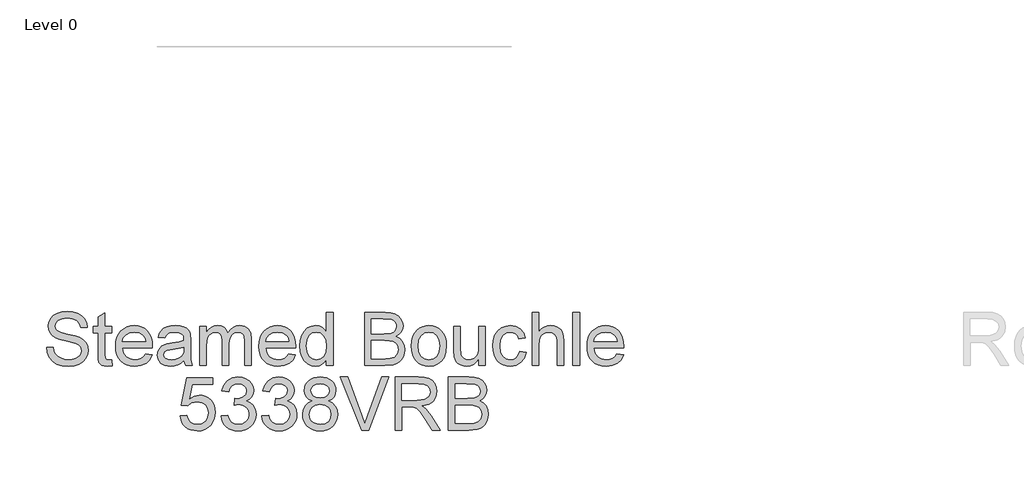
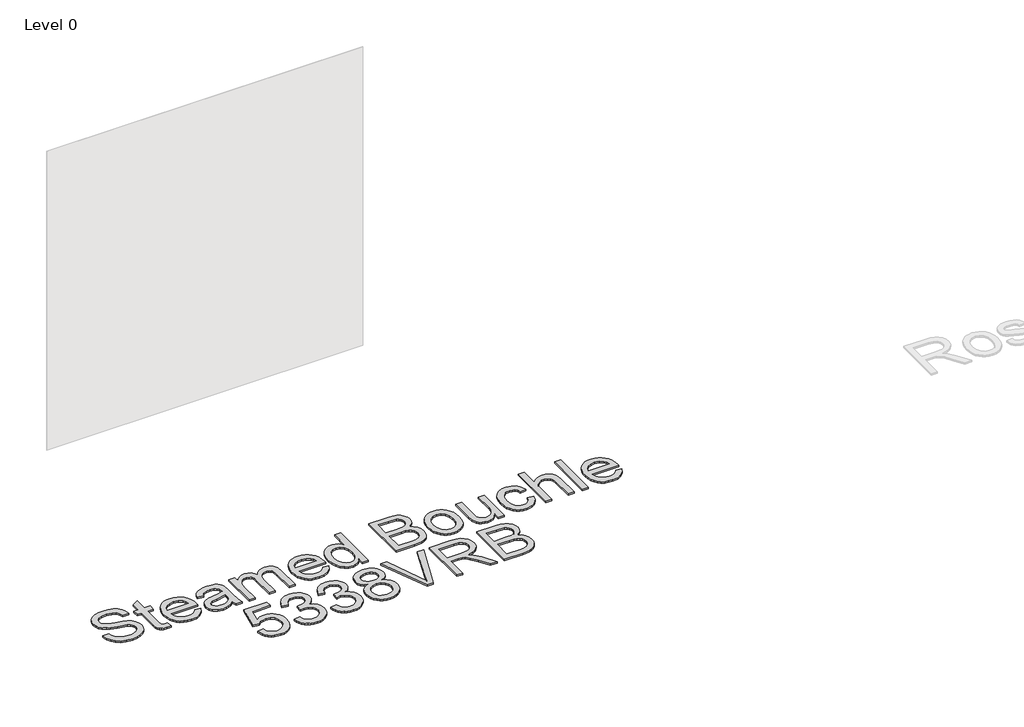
# One storey, part 2 of 43: 1 proxy.
"""IFC4 building model written with IfcOpenShell, lengths in millimetres."""

import ifcopenshell
import ifcopenshell.guid

model = None  # the IFC model being written
_history = None  # IfcOwnerHistory: only IFC2X3 demands one
_inside = {}  # id of a spatial element -> (the spatial element, [elements in it])
_under = {}  # id of a project, library or spatial element -> (it, [spatial elements below it])
_declared = {}  # id of a project -> (the project, [libraries it declares])
_typed = {}  # id of a type object -> (the type object, [elements of that type])
_made_of = {}  # id of a material, layer set ... -> (it, [elements and type objects made of it])


def new_model(schema):
    """Start an empty IFC model of exactly this schema.

    Asked for "IFC4X3", IfcOpenShell would pick the latest addendum, in which some entities
    have other attributes; the version numbers below select the first issue.
    IFC2X3 requires an IfcOwnerHistory on every rooted entity: one is made here for all.
    """
    global model, _history
    if schema == "IFC4X3":
        model = ifcopenshell.file(schema_version=(4, 3, 0, 0))
    else:
        model = ifcopenshell.file(schema=schema)
    _inside.clear()
    _under.clear()
    _declared.clear()
    _typed.clear()
    _made_of.clear()
    _history = None
    if model.schema == "IFC2X3":
        org = make("IfcOrganization", Name="unknown")
        user = make(
            "IfcPersonAndOrganization",
            ThePerson=make("IfcPerson", FamilyName="unknown"),
            TheOrganization=org,
        )
        app = make(
            "IfcApplication",
            ApplicationDeveloper=org,
            Version="unknown",
            ApplicationFullName="unknown",
            ApplicationIdentifier="unknown",
        )
        _history = make(
            "IfcOwnerHistory",
            OwningUser=user,
            OwningApplication=app,
            ChangeAction="ADDED",
            CreationDate=0,
        )
    return model


def make(cls, **values):
    """One entity of the class cls with the attributes given. An attribute that is None is left unset."""
    return model.create_entity(
        cls, **{name: value for name, value in values.items() if value is not None}
    )


def rooted(cls, **values):
    """An entity with a GlobalId (a new one), such as an element, a storey or a relation."""
    return make(cls, GlobalId=ifcopenshell.guid.new(), OwnerHistory=_history, **values)


def si_unit(unit_type, name, prefix=None):
    """IfcSIUnit, for example si_unit("LENGTHUNIT", "METRE", prefix="MILLI")."""
    return make("IfcSIUnit", UnitType=unit_type, Prefix=prefix, Name=name)


def assignment(units):
    """IfcUnitAssignment: the units of a project."""
    return None if units is None else make("IfcUnitAssignment", Units=units)


def point(xyz):
    """IfcCartesianPoint."""
    return None if xyz is None else make("IfcCartesianPoint", Coordinates=xyz)


def direction(xyz):
    """IfcDirection."""
    return None if xyz is None else make("IfcDirection", DirectionRatios=xyz)


def frame(location, z_axis=None, x_axis=None):
    """IfcAxis2Placement3D, a coordinate frame: its origin and axes. An axis left out is left unset."""
    return make(
        "IfcAxis2Placement3D",
        Location=point(location),
        Axis=direction(z_axis),
        RefDirection=direction(x_axis),
    )


def origin():
    """The frame at (0, 0, 0) with its axes left unset."""
    return frame((0.0, 0.0, 0.0))


def origin_with_axes():
    """The frame at (0, 0, 0) with the z axis (0, 0, 1) and the x axis (1, 0, 0) written out."""
    return frame((0.0, 0.0, 0.0), z_axis=(0.0, 0.0, 1.0), x_axis=(1.0, 0.0, 0.0))


def place(relative_to, where):
    """IfcLocalPlacement: puts the frame where relative to a parent placement (None: the world)."""
    return make(
        "IfcLocalPlacement", PlacementRelTo=relative_to, RelativePlacement=where
    )


def context(
    kind, dimensions, precision=None, world=None, true_north=None, identifier=None
):
    """IfcGeometricRepresentationContext, for example the 3D "Model" context."""
    return make(
        "IfcGeometricRepresentationContext",
        ContextIdentifier=identifier,
        ContextType=kind,
        CoordinateSpaceDimension=dimensions,
        Precision=precision,
        WorldCoordinateSystem=world,
        TrueNorth=true_north,
    )


def project(units=None, contexts=None):
    """IfcProject with its units and contexts."""
    return rooted(
        "IfcProject",
        Name="project",
        RepresentationContexts=contexts,
        UnitsInContext=assignment(units),
    )


def spatial(cls, under=None, at=None, **own):
    """A site, building, storey or space (cls), placed at a placement, below another one or the project."""
    s = rooted(cls, ObjectPlacement=at, **own)
    if under is not None:
        _under.setdefault(under.id(), (under, []))[1].append(s)
    return s


def polyline(points):
    """IfcPolyline through the points."""
    return make("IfcPolyline", Points=[point(p) for p in points])


def outline(outer, holes=None, kind="AREA"):
    """IfcArbitraryClosedProfileDef: a profile drawn as a closed curve; with holes, ...WithVoids."""
    if holes is None:
        return make("IfcArbitraryClosedProfileDef", ProfileType=kind, OuterCurve=outer)
    return make(
        "IfcArbitraryProfileDefWithVoids",
        ProfileType=kind,
        OuterCurve=outer,
        InnerCurves=holes,
    )


def extrude(swept, where, along, depth):
    """IfcExtrudedAreaSolid: the profile swept, set in the frame where, extruded along a direction by depth."""
    return make(
        "IfcExtrudedAreaSolid",
        SweptArea=swept,
        Position=where,
        ExtrudedDirection=direction(along),
        Depth=depth,
    )


def shape(context_of_items, identifier, shape_type, items):
    """IfcShapeRepresentation: the items that make up one representation, for example the "Body"."""
    return make(
        "IfcShapeRepresentation",
        ContextOfItems=context_of_items,
        RepresentationIdentifier=identifier,
        RepresentationType=shape_type,
        Items=items,
    )


def made_of(thing, what):
    """Note that an element or type object is made of a material, layer set ...; save() writes the relation."""
    if what is not None:
        _made_of.setdefault(what.id(), (what, []))[1].append(thing)
    return thing


def element(
    cls,
    number,
    at=None,
    inside=None,
    cuts=None,
    type_object=None,
    material=None,
    context=None,
    identifier="Body",
    shape_type=None,
    held_by="IfcProductDefinitionShape",
    body=None,
    shapes=None,
    **own,
):
    """One element of the class cls, such as IfcWall. Its Tag is "e" and its number.

    at: its placement. inside: the storey or other place that contains it. cuts: it is an
    opening in that element (IfcRelVoidsElement). A single representation is given by context,
    identifier, shape_type and body (its items); several are given by shapes. held_by: the class
    of the entity that holds the representations. save() writes the other relations.
    """
    e = rooted(cls, Tag="e%d" % number, ObjectPlacement=at, **own)
    if body is not None:
        shapes = [shape(context, identifier, shape_type, body)]
    if shapes is not None:
        e.Representation = make(held_by, Representations=shapes)
    if inside is not None:
        _inside.setdefault(inside.id(), (inside, []))[1].append(e)
    if cuts is not None:
        rooted(
            "IfcRelVoidsElement", RelatingBuildingElement=cuts, RelatedOpeningElement=e
        )
    if type_object is not None:
        _typed.setdefault(type_object.id(), (type_object, []))[1].append(e)
    return made_of(e, material)


def aggregate(whole, parts):
    """IfcRelAggregates: a whole, such as a stair, and the parts it consists of."""
    return rooted("IfcRelAggregates", RelatingObject=whole, RelatedObjects=parts)


def save(model, path):
    """Write the relations noted so far, then the file.

    IfcRelAggregates (storeys below a building ...), IfcRelContainedInSpatialStructure (elements
    in a storey), IfcRelDefinesByType, IfcRelAssociatesMaterial and IfcRelDeclares: one each for
    every whole, place, type object, material and project.
    """
    for whole, parts in _under.values():
        aggregate(whole, parts)
    for where, things in _inside.values():
        rooted(
            "IfcRelContainedInSpatialStructure",
            RelatedElements=things,
            RelatingStructure=where,
        )
    for kind, things in _typed.values():
        rooted("IfcRelDefinesByType", RelatedObjects=things, RelatingType=kind)
    for what, things in _made_of.values():
        rooted("IfcRelAssociatesMaterial", RelatedObjects=things, RelatingMaterial=what)
    for by, libraries in _declared.values():
        rooted("IfcRelDeclares", RelatingContext=by, RelatedDefinitions=libraries)
    model.write(path)


model = new_model("IFC4")

# Units and contexts
model_context = context("Model", 3, world=origin())
ifc_project = project(units=[si_unit("LENGTHUNIT", "METRE", prefix="MILLI")], contexts=[model_context])

# Site, building, storey
site = spatial("IfcSite", under=ifc_project)
building = spatial("IfcBuilding", under=site)
storey = spatial("IfcBuildingStorey", under=building, Name="Level 0", Elevation=0.0)

# Proxy
placement = place(None, origin())
element("IfcBuildingElementProxy", 1, Name="300mm Arial", ObjectType="300mm Arial", at=placement, inside=storey, context=model_context, shape_type="SweptSolid", body=[
    extrude(outline(polyline([(-11077.5793918, -41926.4348053), (-11039.9082755, -41926.4348053), (-11035.585662, -41947.3396997), (-11027.7681696, -41964.1427098), (-11015.5728815, -41977.4784321), (-10998.1168808, -41987.9814631), (-10976.7797251, -41994.796477), (-10952.9409718, -41997.0681484), (-10931.953304, -41995.3483), (-10913.5775983, -41990.188755), (-10898.6875746, -41982.0217748), (-10888.1569525, -41971.2796205), (-10881.8937615, -41958.9463766), (-10879.8060312, -41946.0061274), (-10881.3695296, -41933.396972), (-10886.0600251, -41922.4984679), (-10895.5881688, -41913.2002505), (-10911.664612, -41905.3919552), (-10966.5158174, -41891.0077691), (-11002.5222677, -41881.4888225), (-11025.5608777, -41872.4297284), (-11044.3136624, -41859.7561937), (-11057.6033994, -41844.3971204), (-11065.5220594, -41826.6836023), (-11068.1616127, -41806.9467332), (-11064.89666, -41784.8830106), (-11055.1018019, -41764.30921), (-11039.0345557, -41746.8716034), (-11016.952439, -41734.2164628), (-10990.4465412, -41726.518532), (-10961.1079521, -41723.9525551), (-10929.3229477, -41726.6380937), (-10901.5110689, -41734.6947094), (-10878.665597, -41747.9568553), (-10861.7798134, -41766.2589846), (-10851.0928414, -41788.460663), (-10846.8438044, -41813.4214564), (-10884.5149207, -41813.4214564), (-10891.4311022, -41790.9438665), (-10905.8520764, -41774.7202705), (-10928.3848486, -41764.8978212), (-10959.6364241, -41761.6236714), (-10991.6237636, -41764.861033), (-11013.5679246, -41774.5731177), (-11026.2598535, -41788.8653332), (-11030.4904964, -41805.8430873), (-11027.4922581, -41820.3192438), (-11018.4975434, -41831.9627089), (-10997.233964, -41842.3737694), (-10956.9876738, -41853.005559), (-10915.4537965, -41863.1039198), (-10890.3274562, -41871.9146936), (-10868.8523448, -41885.5815097), (-10853.8703505, -41902.4488992), (-10845.0687738, -41922.332921), (-10842.1349149, -41945.0496342), (-10845.5102322, -41968.2721852), (-10855.6361841, -41990.1151786), (-10872.0989034, -42008.9139486), (-10894.4845228, -42023.003829), (-10921.4042878, -42031.8054057), (-10951.4694438, -42034.7392647), (-10988.377205, -42031.5754795), (-11018.7550607, -42022.084124), (-11042.952499, -42006.22841), (-11061.3190076, -41983.9715493), (-11073.1096255, -41956.8586463), (-11077.5793918, -41926.4348053)])), origin_with_axes(), (0.0, 0.0, 1.0), 10.0),
    extrude(outline(polyline([(-10710.2860078, -41998.6132527), (-10705.5771183, -42031.1340211), (-10733.7568791, -42034.7392647), (-10751.8382791, -42033.1757662), (-10765.3211543, -42028.4852707), (-10774.8492979, -42021.2563895), (-10781.0665037, -42012.0777338), (-10784.4878062, -41996.3139903), (-10785.6282404, -41969.3298459), (-10785.6282404, -41846.3836831), (-10813.8815776, -41846.3836831), (-10813.8815776, -41808.7125668), (-10785.6282404, -41808.7125668), (-10785.6282404, -41754.9282191), (-10747.9571241, -41732.781723), (-10747.9571241, -41808.7125668), (-10710.2860078, -41808.7125668), (-10710.2860078, -41846.3836831), (-10747.9571241, -41846.3836831), (-10747.9571241, -41968.2261999), (-10745.9705613, -41987.6503693), (-10739.5326264, -41994.5297626), (-10726.6935448, -41997.0681484), (-10710.2860078, -41998.6132527)])), origin_with_axes(), (0.0, 0.0, 1.0), 10.0),
    extrude(outline(polyline([(-10517.6629951, -41964.1059216), (-10480.7276428, -41968.8148111), (-10494.035774, -41996.6450841), (-10515.2717621, -42017.4488109), (-10543.9573607, -42030.4166512), (-10579.6143231, -42034.7392647), (-10602.9886254, -42032.8745628), (-10623.8153448, -42027.2804572), (-10642.0944815, -42017.9569479), (-10657.8260353, -42004.9040349), (-10670.4765774, -41988.4850016), (-10679.5126789, -41969.0631315), (-10684.9343398, -41946.6384246), (-10686.7415601, -41921.2108809), (-10684.9159457, -41894.9211139), (-10679.4391025, -41871.7491467), (-10670.3110305, -41851.6949794), (-10657.5317297, -41834.7586121), (-10641.8415626, -41821.3033281), (-10623.9808917, -41811.692411), (-10603.9497171, -41805.9258607), (-10581.7480387, -41804.0036773), (-10560.2614309, -41805.9212622), (-10540.8303638, -41811.6740169), (-10523.4548373, -41821.2619414), (-10508.1348514, -41834.6850357), (-10495.6291629, -41851.5846148), (-10486.6965282, -41871.6019939), (-10481.3369474, -41894.7371729), (-10479.5504204, -41920.9901518), (-10479.7711496, -41931.1436948), (-10649.0704438, -41931.1436948), (-10642.5497354, -41959.3418497), (-10627.4021943, -41980.0720002), (-10605.5408067, -41992.8191113), (-10578.8785591, -41997.0681484), (-10558.8289904, -41995.0999797), (-10541.9432068, -41989.1954737), (-10528.2212084, -41978.9867483), (-10517.6629951, -41964.1059216)]), holes=[polyline([(-10649.0704438, -41893.4725785), (-10517.2215367, -41893.4725785), (-10522.3167024, -41873.5701626), (-10532.3046985, -41859.3331294), (-10554.2672536, -41846.0893775), (-10581.8951915, -41841.6747936), (-10607.2882462, -41845.1972637), (-10628.2851111, -41855.764674), (-10642.8808292, -41872.2365903), (-10649.0704438, -41893.4725785)])]), origin_with_axes(), (0.0, 0.0, 1.0), 10.0),
    extrude(outline(polyline([(-10300.612618, -42001.7770379), (-10318.6112446, -42017.2096876), (-10337.1433001, -42027.3080484), (-10356.6318488, -42032.8814606), (-10377.499955, -42034.7392647), (-10408.9814567, -42030.2694984), (-10432.2040076, -42016.8601997), (-10446.5238143, -41996.4979313), (-10451.2970832, -41971.1692559), (-10449.4944614, -41955.5526652), (-10444.0865961, -41941.3708143), (-10435.7448718, -41929.2307084), (-10425.1406733, -41919.739353), (-10398.7635343, -41907.3785179), (-10366.1691895, -41901.7131352), (-10327.6519446, -41895.7534469), (-10300.8333472, -41888.763689), (-10300.612618, -41880.3759795), (-10303.206186, -41863.5637723), (-10310.9868902, -41852.5641006), (-10328.3877086, -41844.3971204), (-10352.6311321, -41841.6747936), (-10375.0719338, -41843.4866124), (-10390.7437068, -41848.9220689), (-10401.4306787, -41858.9744444), (-10408.9170773, -41874.6370204), (-10446.5881937, -41869.9281308), (-10440.0490912, -41849.3267391), (-10430.2910213, -41833.1399313), (-10416.4034759, -41820.7607022), (-10397.4759473, -41811.5820464), (-10374.3269727, -41805.8982696), (-10347.7750897, -41804.0036773), (-10322.3084586, -41805.6775404), (-10302.1209341, -41810.6991296), (-10286.8998166, -41818.2499075), (-10276.3324063, -41827.5113368), (-10269.3242543, -41838.9616639), (-10264.7809116, -41853.0791354), (-10262.9415017, -41886.0413622), (-10262.9415017, -41932.9095284), (-10261.0285153, -41998.3557353), (-10253.5237226, -42030.0303751), (-10291.1948389, -42030.0303751), (-10300.612618, -42001.7770379)]), holes=[polyline([(-10300.612618, -41926.4348053), (-10361.3867236, -41937.9862999), (-10393.7971273, -41944.093141), (-10408.4756189, -41954.0259549), (-10413.6259669, -41968.5205055), (-10410.8208667, -41979.7225123), (-10402.405566, -41988.9011681), (-10388.564006, -41995.0264033), (-10369.4801275, -41997.0681484), (-10349.2466177, -41994.8148711), (-10331.3675528, -41988.0550395), (-10316.8730022, -41978.0946345), (-10306.7930355, -41966.2396372), (-10302.3232692, -41954.0259549), (-10300.8333472, -41937.1033831), (-10300.612618, -41926.4348053)])]), origin_with_axes(), (0.0, 0.0, 1.0), 10.0),
    extrude(outline(polyline([(-10211.1437167, -42030.0303751), (-10211.1437167, -41808.7125668), (-10173.4726004, -41808.7125668), (-10173.4726004, -41845.1328843), (-10162.141835, -41828.4034506), (-10147.573708, -41815.2976545), (-10130.2648601, -41806.8271716), (-10110.7119321, -41804.0036773), (-10089.7610524, -41806.8823539), (-10072.9672393, -41815.5183837), (-10060.4224633, -41829.3415497), (-10052.2186948, -41847.7816347), (-10038.4874994, -41828.6287783), (-10022.8249234, -41814.9481666), (-10005.230967, -41806.7397996), (-9985.7056301, -41804.0036773), (-9957.3879135, -41808.556217), (-9936.4462309, -41822.213836), (-9923.5059818, -41845.3444165), (-9919.1925654, -41878.3158403), (-9919.1925654, -42030.0303751), (-9956.8636817, -42030.0303751), (-9956.8636817, -41894.5026481), (-9960.3585606, -41863.0487375), (-9965.2697853, -41854.3759195), (-9973.0137013, -41847.5609055), (-9982.9741063, -41843.1463216), (-9994.534798, -41841.6747936), (-10014.9430517, -41845.445584), (-10031.5805149, -41856.7579554), (-10042.6445659, -41876.3844598), (-10046.3325829, -41905.0976496), (-10046.3325829, -42030.0303751), (-10084.0036992, -42030.0303751), (-10084.0036992, -41890.3087934), (-10086.1834, -41869.0084258), (-10092.7225025, -41853.8148994), (-10104.2280119, -41844.7098201), (-10121.3069335, -41841.6747936), (-10135.8198782, -41843.6981446), (-10149.1923887, -41849.7681975), (-10160.2288486, -41859.7377996), (-10167.7336413, -41873.459798), (-10172.0378606, -41892.4976912), (-10173.4726004, -41918.4149778), (-10173.4726004, -42030.0303751), (-10211.1437167, -42030.0303751)])), origin_with_axes(), (0.0, 0.0, 1.0), 10.0),
    extrude(outline(polyline([(-9707.7339945, -41964.1059216), (-9670.7986422, -41968.8148111), (-9684.1067734, -41996.6450841), (-9705.3427616, -42017.4488109), (-9734.0283601, -42030.4166512), (-9769.6853225, -42034.7392647), (-9793.0596248, -42032.8745628), (-9813.8863442, -42027.2804572), (-9832.1654809, -42017.9569479), (-9847.8970347, -42004.9040349), (-9860.5475768, -41988.4850016), (-9869.5836783, -41969.0631315), (-9875.0053392, -41946.6384246), (-9876.8125595, -41921.2108809), (-9874.9869451, -41894.9211139), (-9869.5101019, -41871.7491467), (-9860.3820299, -41851.6949794), (-9847.6027291, -41834.7586121), (-9831.912562, -41821.3033281), (-9814.0518911, -41811.692411), (-9794.0207165, -41805.9258607), (-9771.8190381, -41804.0036773), (-9750.3324303, -41805.9212622), (-9730.9013632, -41811.6740169), (-9713.5258367, -41821.2619414), (-9698.2058509, -41834.6850357), (-9685.7001623, -41851.5846148), (-9676.7675276, -41871.6019939), (-9671.4079468, -41894.7371729), (-9669.6214198, -41920.9901518), (-9669.842149, -41931.1436948), (-9839.1414432, -41931.1436948), (-9832.6207348, -41959.3418497), (-9817.4731937, -41980.0720002), (-9795.6118061, -41992.8191113), (-9768.9495585, -41997.0681484), (-9748.8999898, -41995.0999797), (-9732.0142062, -41989.1954737), (-9718.2922078, -41978.9867483), (-9707.7339945, -41964.1059216)]), holes=[polyline([(-9839.1414432, -41893.4725785), (-9707.2925361, -41893.4725785), (-9712.3877018, -41873.5701626), (-9722.3756979, -41859.3331294), (-9744.3382531, -41846.0893775), (-9771.9661909, -41841.6747936), (-9797.3592456, -41845.1972637), (-9818.3561105, -41855.764674), (-9832.9518286, -41872.2365903), (-9839.1414432, -41893.4725785)])]), origin_with_axes(), (0.0, 0.0, 1.0), 10.0),
    extrude(outline(polyline([(-9495.3925069, -42030.0303751), (-9495.3925069, -41994.4929744), (-9506.6634915, -42012.1007264), (-9520.3165121, -42024.6776921), (-9536.3515686, -42032.2238715), (-9554.7686609, -42034.7392647), (-9579.122449, -42031.0972329), (-9601.4160979, -42020.1711376), (-9620.2884443, -42002.724334), (-9634.3783247, -41979.5201772), (-9643.1523103, -41951.4967662), (-9646.0769721, -41919.5922002), (-9643.3822365, -41888.0831073), (-9635.2980297, -41859.627435), (-9621.8335487, -41835.843864), (-9602.9979905, -41818.3510751), (-9580.216898, -41807.5905267), (-9554.9158137, -41804.0036773), (-9536.4849258, -41806.5696542), (-9520.1877534, -41814.2675849), (-9506.3737845, -41826.0673999), (-9495.3925069, -41840.9390296), (-9495.3925069, -41728.6614447), (-9457.7213906, -41728.6614447), (-9457.7213906, -42030.0303751), (-9495.3925069, -42030.0303751)]), holes=[polyline([(-9608.4058558, -41919.4450474), (-9604.1568188, -41953.5201172), (-9591.4097077, -41977.7543436), (-9572.8868492, -41992.2396972), (-9551.3105702, -41997.0681484), (-9529.7434882, -41992.4604264), (-9511.6896793, -41978.6372604), (-9499.4668, -41955.341133), (-9495.3925069, -41922.3145269), (-9499.5403764, -41886.2069091), (-9511.9839849, -41861.1725393), (-9530.4976463, -41846.54923), (-9552.8556746, -41841.6747936), (-9574.6526828, -41846.356092), (-9592.5133536, -41860.3999871), (-9604.4327303, -41884.523849), (-9608.4058558, -41919.4450474)])]), origin_with_axes(), (0.0, 0.0, 1.0), 10.0),
    extrude(outline(polyline([(-9278.7835882, -42030.0303751), (-9278.7835882, -41728.6614447), (-9163.7836765, -41728.6614447), (-9132.1550219, -41730.8779337), (-9107.460943, -41737.5274008), (-9088.5334144, -41748.7753928), (-9074.2044106, -41764.7874566), (-9065.1821047, -41783.6230148), (-9062.1746694, -41803.3414897), (-9064.7038581, -41821.4872691), (-9072.2914243, -41838.5477966), (-9084.9925502, -41853.4746086), (-9102.8624181, -41865.2192413), (-9081.5160653, -41876.3660657), (-9065.7431248, -41893.3254257), (-9056.0034489, -41914.9752811), (-9052.7568903, -41940.1935919), (-9054.9733793, -41961.2088509), (-9061.6228464, -41980.6973996), (-9071.5464632, -41997.2704835), (-9083.5854015, -42009.539348), (-9098.3282725, -42018.4236982), (-9116.3636873, -42024.843239), (-9164.6665933, -42030.0303751), (-9278.7835882, -42030.0303751)]), holes=[polyline([(-9241.1124719, -41851.0925727), (-9172.3185388, -41851.0925727), (-9132.1458249, -41847.8552111), (-9118.0835356, -41842.2726018), (-9107.9759778, -41833.9124835), (-9101.8783337, -41822.9036148), (-9099.8457857, -41809.3747544), (-9101.740378, -41796.2413672), (-9107.4241548, -41784.8002371), (-9116.6395988, -41775.8699017), (-9129.1291925, -41770.2688983), (-9177.5424631, -41766.332561), (-9241.1124719, -41766.332561), (-9241.1124719, -41851.0925727)]), polyline([(-9241.1124719, -41992.3592588), (-9163.8572529, -41992.3592588), (-9135.8982212, -41990.8877308), (-9112.2434089, -41982.6839623), (-9096.5716359, -41965.9453316), (-9091.963914, -41954.1179254), (-9090.4280066, -41940.5614739), (-9092.2306284, -41924.8161245), (-9097.6384937, -41911.2780671), (-9107.083864, -41900.6922627), (-9120.9990004, -41893.8036723), (-9140.7082783, -41890.0236848), (-9167.5360728, -41888.763689), (-9241.1124719, -41888.763689), (-9241.1124719, -41992.3592588)])]), origin_with_axes(), (0.0, 0.0, 1.0), 10.0),
    extrude(outline(polyline([(-9015.085774, -41919.371471), (-9013.0486275, -41890.708865), (-9006.9371878, -41866.0101876), (-8996.7514551, -41845.2754386), (-8982.4914292, -41828.5046182), (-8968.1348344, -41817.7854565), (-8952.2883174, -41810.1289125), (-8934.9518784, -41805.5349861), (-8916.1255173, -41804.0036773), (-8895.3424839, -41805.8683791), (-8876.5506117, -41811.4624847), (-8859.7499008, -41820.7859941), (-8844.9403512, -41833.8389071), (-8832.8531284, -41850.1797655), (-8824.2193979, -41869.3671108), (-8819.0391595, -41891.400943), (-8817.3124134, -41916.2812622), (-8820.365834, -41954.3386546), (-8829.5260957, -41983.3093617), (-8844.526484, -42005.0052024), (-8865.1002846, -42021.2379954), (-8889.5368461, -42031.3639474), (-8916.1255173, -42034.7392647), (-8937.2120534, -42032.8814606), (-8956.1786695, -42027.3080484), (-8973.0253657, -42018.019028), (-8987.7521418, -42005.0143994), (-8999.7106059, -41988.514892), (-9008.252366, -41968.7412347), (-9013.377422, -41945.6934277), (-9015.085774, -41919.371471)]), holes=[polyline([(-8977.4146577, -41919.2978946), (-8973.0552561, -41953.3913585), (-8959.9770511, -41977.6807672), (-8940.2953644, -41992.2213031), (-8916.1255173, -41997.0681484), (-8892.0660348, -41992.1937119), (-8872.4211363, -41977.5704026), (-8859.3429314, -41952.9590971), (-8854.9835297, -41918.1206722), (-8859.3705225, -41885.0204897), (-8872.5315009, -41861.0621747), (-8892.2039906, -41846.5216389), (-8916.1255173, -41841.6747936), (-8940.2953644, -41846.5032448), (-8959.9770511, -41860.9885983), (-8973.0552561, -41885.2228248), (-8977.4146577, -41919.2978946)])]), origin_with_axes(), (0.0, 0.0, 1.0), 10.0),
    extrude(outline(polyline([(-8633.6657214, -42030.0303751), (-8633.6657214, -41991.9913768), (-8647.2957493, -42010.6935777), (-8663.1698574, -42024.0522927), (-8681.2880457, -42032.0675217), (-8701.6503141, -42034.7392647), (-8719.9984286, -42032.8630665), (-8737.0773503, -42027.234472), (-8751.406354, -42018.7731861), (-8761.5047147, -42008.3989138), (-8772.7251156, -41980.6606114), (-8774.9324076, -41945.6382454), (-8774.9324076, -41808.7125668), (-8737.2612913, -41808.7125668), (-8737.2612913, -41927.9063333), (-8734.9804229, -41966.3132136), (-8729.4897841, -41979.124704), (-8720.0812021, -41988.8643799), (-8707.3800762, -41995.0172062), (-8692.0118059, -41997.0681484), (-8675.7606187, -41994.971221), (-8660.5578953, -41988.6804389), (-8648.0223163, -41978.7752161), (-8639.7725625, -41965.834967), (-8635.1924317, -41948.1122518), (-8633.6657214, -41923.8596313), (-8633.6657214, -41808.7125668), (-8595.9946051, -41808.7125668), (-8595.9946051, -42030.0303751), (-8633.6657214, -42030.0303751)])), origin_with_axes(), (0.0, 0.0, 1.0), 10.0),
    extrude(outline(polyline([(-8402.930134, -41949.979253), (-8365.2590177, -41954.6881425), (-8375.7620487, -41988.1929952), (-8395.4989177, -42013.5124735), (-8422.6118208, -42029.4325669), (-8455.2429538, -42034.7392647), (-8476.3708766, -42032.8883584), (-8495.3145001, -42027.3356395), (-8512.0738242, -42018.0811081), (-8526.648849, -42005.124764), (-8538.4463648, -41988.7103293), (-8546.8731617, -41969.0815256), (-8551.9292399, -41946.2383529), (-8553.6145993, -41920.1808114), (-8550.7359227, -41886.6575646), (-8542.0998928, -41857.604084), (-8527.568554, -41834.1424097), (-8507.0039505, -41817.3945819), (-8482.4018421, -41807.3514034), (-8455.7579886, -41804.0036773), (-8423.9269989, -41808.6022022), (-8398.4787619, -41822.397777), (-8380.2226179, -41844.6546378), (-8369.9679073, -41874.6370204), (-8407.6390236, -41879.3459099), (-8414.4724316, -41862.9107818), (-8425.1134184, -41851.1293609), (-8438.9733725, -41844.0384354), (-8455.463683, -41841.6747936), (-8479.808274, -41846.3285008), (-8499.1312758, -41860.2896225), (-8511.7404312, -41884.3123168), (-8515.943483, -41919.1507418), (-8511.8324017, -41954.4582163), (-8499.4991578, -41978.563684), (-8480.5256439, -41992.4420323), (-8456.4937525, -41997.0681484), (-8436.9868097, -41994.1802747), (-8420.99314, -41985.5166537), (-8409.3588719, -41970.8565562), (-8402.930134, -41949.979253)])), origin_with_axes(), (0.0, 0.0, 1.0), 10.0),
    extrude(outline(polyline([(-8332.296791, -42030.0303751), (-8332.296791, -41728.6614447), (-8294.6256747, -41728.6614447), (-8294.6256747, -41839.4675016), (-8280.7887131, -41823.9520785), (-8265.2502973, -41812.8696334), (-8248.0104274, -41806.2201663), (-8229.0691031, -41804.0036773), (-8206.3156017, -41806.4225014), (-8186.7626737, -41813.6789738), (-8171.3668122, -41825.2028773), (-8161.0845104, -41840.4239948), (-8155.290369, -41861.3380862), (-8153.3589885, -41889.9409114), (-8153.3589885, -42030.0303751), (-8191.0301048, -42030.0303751), (-8191.0301048, -41893.8404605), (-8194.0283431, -41870.2592246), (-8203.0230579, -41854.109205), (-8217.5176085, -41844.7833964), (-8237.0153542, -41841.6747936), (-8252.9354476, -41843.771721), (-8267.8806536, -41850.0625031), (-8280.2598828, -41859.9401347), (-8288.4820453, -41872.7976104), (-8293.0897673, -41889.8857291), (-8294.6256747, -41912.4552895), (-8294.6256747, -42030.0303751), (-8332.296791, -42030.0303751)])), origin_with_axes(), (0.0, 0.0, 1.0), 10.0),
    extrude(outline(polyline([(-8101.5612036, -42030.0303751), (-8101.5612036, -41728.6614447), (-8063.8900873, -41728.6614447), (-8063.8900873, -42030.0303751), (-8101.5612036, -42030.0303751)])), origin_with_axes(), (0.0, 0.0, 1.0), 10.0),
    extrude(outline(polyline([(-7852.4315165, -41964.1059216), (-7815.4961641, -41968.8148111), (-7828.8042953, -41996.6450841), (-7850.0402835, -42017.4488109), (-7878.7258821, -42030.4166512), (-7914.3828444, -42034.7392647), (-7937.7571467, -42032.8745628), (-7958.5838662, -42027.2804572), (-7976.8630028, -42017.9569479), (-7992.5945566, -42004.9040349), (-8005.2450987, -41988.4850016), (-8014.2812002, -41969.0631315), (-8019.7028611, -41946.6384246), (-8021.5100814, -41921.2108809), (-8019.684467, -41894.9211139), (-8014.2076238, -41871.7491467), (-8005.0795518, -41851.6949794), (-7992.300251, -41834.7586121), (-7976.6100839, -41821.3033281), (-7958.7494131, -41811.692411), (-7938.7182384, -41805.9258607), (-7916.51656, -41804.0036773), (-7895.0299522, -41805.9212622), (-7875.5988851, -41811.6740169), (-7858.2233586, -41821.2619414), (-7842.9033728, -41834.6850357), (-7830.3976842, -41851.5846148), (-7821.4650495, -41871.6019939), (-7816.1054687, -41894.7371729), (-7814.3189418, -41920.9901518), (-7814.539671, -41931.1436948), (-7983.8389651, -41931.1436948), (-7977.3182568, -41959.3418497), (-7962.1707156, -41980.0720002), (-7940.3093281, -41992.8191113), (-7913.6470805, -41997.0681484), (-7893.5975117, -41995.0999797), (-7876.7117281, -41989.1954737), (-7862.9897297, -41978.9867483), (-7852.4315165, -41964.1059216)]), holes=[polyline([(-7983.8389651, -41893.4725785), (-7851.9900581, -41893.4725785), (-7857.0852237, -41873.5701626), (-7867.0732199, -41859.3331294), (-7889.035775, -41846.0893775), (-7916.6637128, -41841.6747936), (-7942.0567675, -41845.1972637), (-7963.0536324, -41855.764674), (-7977.6493506, -41872.2365903), (-7983.8389651, -41893.4725785)])]), origin_with_axes(), (0.0, 0.0, 1.0), 10.0),
    extrude(outline(polyline([(-10321.8026209, -42315.9037065), (-10284.1315046, -42311.194817), (-10277.2153231, -42333.8103626), (-10265.1487936, -42350.0063675), (-10247.9870986, -42359.7460433), (-10225.7854201, -42362.9926019), (-10198.7828817, -42358.4768504), (-10178.549372, -42344.9295959), (-10165.9126254, -42323.914337), (-10161.7003766, -42296.994572), (-10165.645911, -42271.6475025), (-10177.4825142, -42252.2601213), (-10197.3021567, -42239.9544686), (-10225.196809, -42235.8525844), (-10243.4713471, -42237.4896592), (-10258.2694003, -42242.4008839), (-10279.422615, -42259.397032), (-10317.0937313, -42254.6881425), (-10284.1315046, -42099.2947877), (-10138.1559289, -42099.2947877), (-10138.1559289, -42136.9659041), (-10253.6708754, -42136.9659041), (-10269.7841068, -42219.9600822), (-10242.8735388, -42203.6261216), (-10214.6753839, -42198.181468), (-10196.3295686, -42199.8691267), (-10179.478274, -42204.9321027), (-10164.1215, -42213.3703959), (-10150.2592465, -42225.1840065), (-10138.7836275, -42239.650966), (-10130.5867568, -42256.0493059), (-10125.6686344, -42274.3790263), (-10124.0292603, -42294.6401272), (-10129.9337663, -42332.3112435), (-10137.3143988, -42349.1050566), (-10147.6472844, -42364.5377063), (-10163.3006633, -42380.3428365), (-10181.5660043, -42391.6322152), (-10202.4433076, -42398.4058424), (-10225.9325729, -42400.6637182), (-10262.9323046, -42394.8603797), (-10278.6109754, -42387.6062066), (-10292.4088495, -42377.4503643), (-10303.889067, -42364.8986905), (-10312.6147681, -42350.4570229), (-10321.8026209, -42315.9037065)])), origin_with_axes(), (0.0, 0.0, 1.0), 10.0),
    extrude(outline(polyline([(-10091.0670335, -42315.9037065), (-10053.3959172, -42311.194817), (-10044.9622225, -42334.8680234), (-10032.6105845, -42350.852496), (-10015.7339979, -42359.9575754), (-9993.7254576, -42362.9926019), (-9967.9001415, -42358.8171412), (-9947.9609374, -42346.2907593), (-9935.2138263, -42327.602354), (-9930.9647892, -42304.940823), (-9935.1770381, -42283.4289234), (-9947.8137846, -42265.9821198), (-9966.9436483, -42254.4214281), (-9990.6352488, -42250.5678642), (-10017.0491761, -42254.6881425), (-10012.8553213, -42217.0170262), (-10006.8220566, -42217.4584846), (-9984.2524962, -42214.7545519), (-9964.0741688, -42206.6427539), (-9949.8371356, -42192.9207555), (-9945.0914578, -42173.3862216), (-9948.5311545, -42157.1166403), (-9958.8502444, -42143.9188738), (-9974.5955938, -42135.1724793), (-9994.3140688, -42132.2570145), (-10014.0693319, -42135.2000705), (-10030.2193515, -42144.0292384), (-10042.0099695, -42158.7445182), (-10048.6870277, -42179.3459099), (-10086.358144, -42174.6370204), (-10075.2665018, -42140.8102709), (-10055.5296328, -42115.5551719), (-10028.5270943, -42099.8282166), (-9995.638444, -42094.5858982), (-9971.9560405, -42097.1702692), (-9950.2050176, -42104.9233823), (-9931.8661001, -42117.1554586), (-9918.4200132, -42133.1767195), (-9910.1702594, -42151.6351986), (-9907.4203415, -42171.1789296), (-9910.0323037, -42189.3890884), (-9917.8681902, -42205.9069899), (-9930.8176364, -42219.9784763), (-9948.7702778, -42230.8493892), (-9925.1890419, -42240.3775329), (-9907.7146471, -42256.6011289), (-9896.8989165, -42278.6372604), (-9893.2936729, -42305.6030106), (-9895.0962947, -42324.7144803), (-9900.50416, -42342.3176338), (-9909.5172689, -42358.412471), (-9922.1356213, -42372.9989922), (-9937.5084902, -42385.1023098), (-9954.7851484, -42393.7475367), (-9973.9655959, -42398.9346728), (-9995.0498328, -42400.6637182), (-10014.1061201, -42399.1875917), (-10031.4701503, -42394.7592122), (-10047.1419233, -42387.3785796), (-10061.1214391, -42377.0456941), (-10072.8430792, -42364.3675608), (-10081.7412249, -42349.9511852), (-10087.8158764, -42333.796567), (-10091.0670335, -42315.9037065)])), origin_with_axes(), (0.0, 0.0, 1.0), 10.0),
    extrude(outline(polyline([(-9860.3314461, -42315.9037065), (-9822.6603298, -42311.194817), (-9814.2266351, -42334.8680234), (-9801.8749971, -42350.852496), (-9784.9984106, -42359.9575754), (-9762.9898702, -42362.9926019), (-9737.1645542, -42358.8171412), (-9717.22535, -42346.2907593), (-9704.4782389, -42327.602354), (-9700.2292018, -42304.940823), (-9704.4414507, -42283.4289234), (-9717.0781972, -42265.9821198), (-9736.208061, -42254.4214281), (-9759.8996615, -42250.5678642), (-9786.3135887, -42254.6881425), (-9782.119734, -42217.0170262), (-9776.0864692, -42217.4584846), (-9753.5169088, -42214.7545519), (-9733.3385814, -42206.6427539), (-9719.1015482, -42192.9207555), (-9714.3558705, -42173.3862216), (-9717.7955671, -42157.1166403), (-9728.1146571, -42143.9188738), (-9743.8600065, -42135.1724793), (-9763.5784814, -42132.2570145), (-9783.3337445, -42135.2000705), (-9799.4837641, -42144.0292384), (-9811.2743821, -42158.7445182), (-9817.9514403, -42179.3459099), (-9855.6225566, -42174.6370204), (-9844.5309144, -42140.8102709), (-9824.7940454, -42115.5551719), (-9797.791507, -42099.8282166), (-9764.9028566, -42094.5858982), (-9741.2204531, -42097.1702692), (-9719.4694302, -42104.9233823), (-9701.1305127, -42117.1554586), (-9687.6844258, -42133.1767195), (-9679.4346721, -42151.6351986), (-9676.6847541, -42171.1789296), (-9679.2967163, -42189.3890884), (-9687.1326028, -42205.9069899), (-9700.082049, -42219.9784763), (-9718.0346904, -42230.8493892), (-9694.4534545, -42240.3775329), (-9676.9790597, -42256.6011289), (-9666.1633291, -42278.6372604), (-9662.5580855, -42305.6030106), (-9664.3607073, -42324.7144803), (-9669.7685726, -42342.3176338), (-9678.7816815, -42358.412471), (-9691.400034, -42372.9989922), (-9706.7729028, -42385.1023098), (-9724.049561, -42393.7475367), (-9743.2300085, -42398.9346728), (-9764.3142454, -42400.6637182), (-9783.3705327, -42399.1875917), (-9800.7345629, -42394.7592122), (-9816.4063359, -42387.3785796), (-9830.3858517, -42377.0456941), (-9842.1074918, -42364.3675608), (-9851.0056376, -42349.9511852), (-9857.080289, -42333.796567), (-9860.3314461, -42315.9037065)])), origin_with_axes(), (0.0, 0.0, 1.0), 10.0),
    extrude(outline(polyline([(-9574.7078651, -42229.9664724), (-9594.8769955, -42220.0336586), (-9609.0312552, -42206.5691775), (-9617.3913736, -42189.8489409), (-9620.1780797, -42170.14886), (-9618.6605665, -42154.7851882), (-9614.1080268, -42140.6999063), (-9606.5204606, -42127.8930143), (-9595.897868, -42116.3645123), (-9582.7506852, -42106.8363686), (-9567.5893485, -42100.0305517), (-9531.2242133, -42094.5858982), (-9494.6383488, -42100.1593104), (-9479.3114652, -42107.1260757), (-9465.9619473, -42116.8795471), (-9455.1462166, -42128.6333769), (-9447.4206947, -42141.6012172), (-9442.7853816, -42155.7830681), (-9441.2402772, -42171.1789296), (-9443.9901951, -42190.244414), (-9452.2399489, -42206.6795421), (-9466.081509, -42220.0612497), (-9485.6068458, -42229.9664724), (-9462.4210831, -42241.9134402), (-9445.5444966, -42259.5073966), (-9435.2529978, -42281.9022131), (-9431.8224982, -42308.251761), (-9433.5239524, -42327.0413339), (-9438.6283151, -42344.2674083), (-9447.1355862, -42359.9299843), (-9459.0457658, -42374.0290617), (-9473.7334545, -42385.6817239), (-9490.5732528, -42394.0050541), (-9509.5651608, -42398.9990522), (-9530.7091785, -42400.6637182), (-9551.8531961, -42398.9921544), (-9570.8451041, -42393.9774629), (-9587.6849025, -42385.6196439), (-9602.3725911, -42373.9186971), (-9614.2827707, -42359.7207514), (-9622.7900419, -42343.8719352), (-9627.8944045, -42326.3722485), (-9629.5958588, -42307.2216914), (-9626.0274034, -42279.851271), (-9615.3220373, -42257.3368929), (-9598.0315836, -42240.4511093), (-9574.7078651, -42229.9664724)]), holes=[polyline([(-9582.5069634, -42171.252506), (-9579.1684343, -42187.6968312), (-9569.152847, -42200.8302184), (-9552.754507, -42209.4386571), (-9530.2677201, -42212.3081367), (-9508.305165, -42209.4570512), (-9492.1551454, -42200.9037948), (-9482.2223315, -42188.211866), (-9478.9113935, -42172.9447632), (-9482.3326961, -42157.0982462), (-9492.5966038, -42143.9924502), (-9508.9673525, -42135.1908734), (-9530.7091785, -42132.2570145), (-9552.5889601, -42135.1264941), (-9568.9321178, -42143.7349328), (-9579.113252, -42156.3532852), (-9582.5069634, -42171.252506)]), polyline([(-9591.9247425, -42305.8973162), (-9585.6339603, -42334.2610181), (-9576.9243541, -42346.4287151), (-9563.3770996, -42355.4878092), (-9547.1535036, -42361.1164037), (-9530.4148729, -42362.9926019), (-9504.7734978, -42359.0470675), (-9485.5332695, -42347.2104643), (-9473.5035282, -42329.2854141), (-9469.4936145, -42307.0745386), (-9473.6322869, -42284.4865841), (-9486.0483042, -42266.1660608), (-9505.729991, -42254.0259549), (-9531.6656716, -42249.979253), (-9556.9483618, -42253.9707726), (-9575.9954521, -42265.9453316), (-9587.9424199, -42283.916367), (-9591.9247425, -42305.8973162)])]), origin_with_axes(), (0.0, 0.0, 1.0), 10.0),
    extrude(outline(polyline([(-9295.7061599, -42395.9548287), (-9415.6356904, -42094.5858982), (-9375.3158237, -42094.5858982), (-9295.0439723, -42311.7098518), (-9278.7835882, -42360.6381571), (-9262.7439332, -42311.7098518), (-9182.2513526, -42094.5858982), (-9141.931486, -42094.5858982), (-9256.7842448, -42395.9548287), (-9295.7061599, -42395.9548287)])), origin_with_axes(), (0.0, 0.0, 1.0), 10.0),
    extrude(outline(polyline([(-9106.90912, -42395.9548287), (-9106.90912, -42094.5858982), (-8977.0467757, -42094.5858982), (-8942.1439714, -42096.6184462), (-8916.7509167, -42102.7160903), (-8898.1912701, -42113.9732794), (-8883.7886899, -42131.4844623), (-8874.5456548, -42153.1986971), (-8871.4646431, -42177.0650415), (-8876.5690058, -42206.7531185), (-8891.8820938, -42231.364424), (-8903.481873, -42241.3938069), (-8917.8637597, -42249.4090359), (-8954.973856, -42259.397032), (-8933.5631239, -42275.5102634), (-8903.0289183, -42314.2850257), (-8852.7762377, -42395.9548287), (-8896.5541952, -42395.9548287), (-8935.7704159, -42333.4884659), (-8964.0973295, -42292.1385296), (-8983.9997454, -42272.6039957), (-9001.9155986, -42265.4302968), (-9023.7677891, -42264.1059216), (-9069.2380037, -42264.1059216), (-9069.2380037, -42395.9548287), (-9106.90912, -42395.9548287)]), holes=[polyline([(-9069.2380037, -42226.4348053), (-8984.9194504, -42226.4348053), (-8960.7036181, -42225.101233), (-8941.9140452, -42221.1005163), (-8927.7689825, -42214.1659407), (-8917.4866807, -42204.0307918), (-8911.2234897, -42191.7711243), (-8909.1357594, -42178.4629931), (-8913.118082, -42160.0872874), (-8925.0650498, -42145.2800371), (-8945.6204563, -42135.5127702), (-8975.4280949, -42132.2570145), (-9069.2380037, -42132.2570145), (-9069.2380037, -42226.4348053)])]), origin_with_axes(), (0.0, 0.0, 1.0), 10.0),
    extrude(outline(polyline([(-8805.5401896, -42395.9548287), (-8805.5401896, -42094.5858982), (-8690.5402779, -42094.5858982), (-8658.9116233, -42096.8023872), (-8634.2175444, -42103.4518543), (-8615.2900158, -42114.6998463), (-8600.961012, -42130.7119101), (-8591.9387061, -42149.5474683), (-8588.9312708, -42169.2659432), (-8591.4604595, -42187.4117226), (-8599.0480257, -42204.4722502), (-8611.7491516, -42219.3990621), (-8629.6190195, -42231.1436948), (-8608.2726667, -42242.2905193), (-8592.4997262, -42259.2498792), (-8582.7600503, -42280.8997347), (-8579.5134917, -42306.1180454), (-8581.7299807, -42327.1333044), (-8588.3794478, -42346.6218531), (-8598.3030646, -42363.194937), (-8610.3420029, -42375.4638015), (-8625.0848739, -42384.3481517), (-8643.1202887, -42390.7676925), (-8691.4231947, -42395.9548287), (-8805.5401896, -42395.9548287)]), holes=[polyline([(-8767.8690733, -42217.0170262), (-8699.0751402, -42217.0170262), (-8658.9024263, -42213.7796646), (-8644.840137, -42208.1970554), (-8634.7325792, -42199.836937), (-8628.6349351, -42188.8280683), (-8626.6023871, -42175.2992079), (-8628.4969794, -42162.1658207), (-8634.1807562, -42150.7246907), (-8643.3962002, -42141.7943552), (-8655.8857939, -42136.1933519), (-8704.2990645, -42132.2570145), (-8767.8690733, -42132.2570145), (-8767.8690733, -42217.0170262)]), polyline([(-8767.8690733, -42358.2837124), (-8690.6138543, -42358.2837124), (-8662.6548226, -42356.8121844), (-8639.0000103, -42348.6084159), (-8623.3282374, -42331.8697851), (-8618.7205154, -42320.042379), (-8617.184608, -42306.4859274), (-8618.9872298, -42290.740578), (-8624.3950951, -42277.2025206), (-8633.8404654, -42266.6167162), (-8647.7556018, -42259.7281258), (-8667.4648797, -42255.9481383), (-8694.2926742, -42254.6881425), (-8767.8690733, -42254.6881425), (-8767.8690733, -42358.2837124)])]), origin_with_axes(), (0.0, 0.0, 1.0), 10.0),
])

save(model, "model.ifc")
